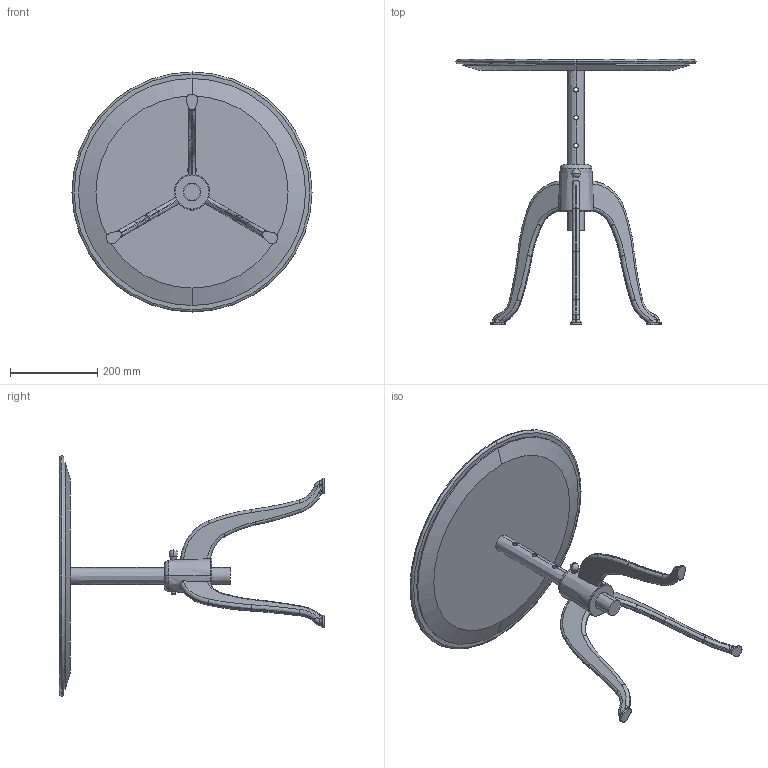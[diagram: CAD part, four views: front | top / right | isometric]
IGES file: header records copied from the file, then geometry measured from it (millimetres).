
Start section: SolidWorks IGES file using analytic representation for surfaces
Global section: file name: C:\Users\Ruben\Box Sync\Studio Ilse\459 Sidekicks Height Adjustable Table\sales related\PDF\version f\459_sidetable_vf_mesa.IGS; native system: SolidWorks 2016; preprocessor: SolidWorks 2016; author: ruben; date: 170601.160506; units: millimetre
Bounding box: 550 x 607.3 x 550 mm (x, y, z)
Volume: 6575525.3 mm3; surface area: 1164183.3 mm2
Topology: 9 solids, 9 shells, 292 faces, 710 edges, 413 vertices
Faces by surface type: revolution 167, bspline 74, plane 51
